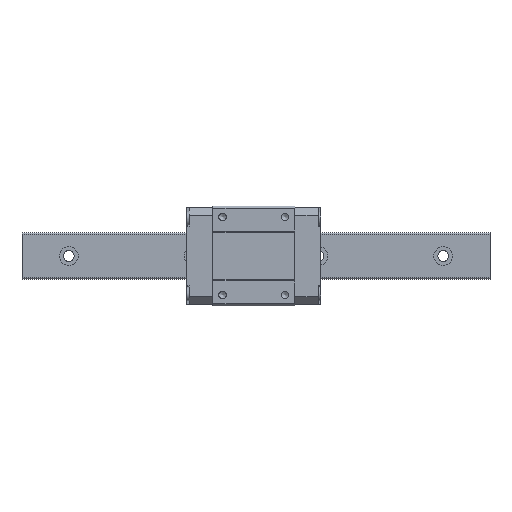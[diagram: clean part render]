
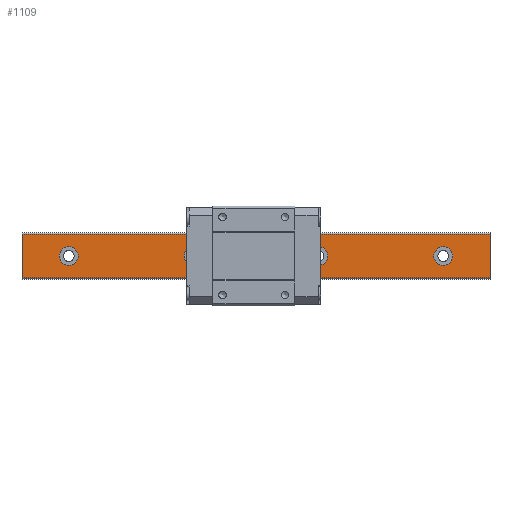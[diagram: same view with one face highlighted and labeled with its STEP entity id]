
A CAD part, top view. The second image highlights one B-rep face of the part: STEP entity #1109.
In plain terms, the highlighted planar face has unit normal (0, 0, 1).
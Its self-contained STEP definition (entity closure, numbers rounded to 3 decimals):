
#137=CARTESIAN_POINT('',(138.0,0.,9.5));
#138=VERTEX_POINT('',#137);
#139=CARTESIAN_POINT('',(135.0,0.,9.5));
#140=DIRECTION('',(0.0,0.0,-1.0));
#141=DIRECTION('',(1.0,0.0,0.0));
#142=AXIS2_PLACEMENT_3D('',#139,#140,#141);
#143=CIRCLE('',#142,3.);
#144=EDGE_CURVE('',#138,#138,#143,.T.);
#247=CARTESIAN_POINT('',(98.0,0.,9.5));
#248=VERTEX_POINT('',#247);
#249=CARTESIAN_POINT('',(95.0,0.,9.5));
#250=DIRECTION('',(0.0,0.0,-1.0));
#251=DIRECTION('',(1.0,0.0,0.0));
#252=AXIS2_PLACEMENT_3D('',#249,#250,#251);
#253=CIRCLE('',#252,3.);
#254=EDGE_CURVE('',#248,#248,#253,.T.);
#357=CARTESIAN_POINT('',(58.,0.,9.5));
#358=VERTEX_POINT('',#357);
#359=CARTESIAN_POINT('',(55.0,0.,9.5));
#360=DIRECTION('',(0.0,0.0,-1.0));
#361=DIRECTION('',(1.0,0.0,0.0));
#362=AXIS2_PLACEMENT_3D('',#359,#360,#361);
#363=CIRCLE('',#362,3.);
#364=EDGE_CURVE('',#358,#358,#363,.T.);
#467=CARTESIAN_POINT('',(18.0,0.,9.5));
#468=VERTEX_POINT('',#467);
#469=CARTESIAN_POINT('',(15.0,0.,9.5));
#470=DIRECTION('',(0.0,0.0,-1.0));
#471=DIRECTION('',(1.0,0.0,0.0));
#472=AXIS2_PLACEMENT_3D('',#469,#470,#471);
#473=CIRCLE('',#472,3.);
#474=EDGE_CURVE('',#468,#468,#473,.T.);
#1041=CARTESIAN_POINT('',(150.0,-7.,9.5));
#1042=VERTEX_POINT('',#1041);
#1049=CARTESIAN_POINT('',(0.0,-7.,9.5));
#1050=VERTEX_POINT('',#1049);
#1051=CARTESIAN_POINT('',(0.0,-7.,9.5));
#1052=DIRECTION('',(1.0,0.0,0.0));
#1053=VECTOR('',#1052,150.0);
#1054=LINE('',#1051,#1053);
#1055=EDGE_CURVE('',#1050,#1042,#1054,.T.);
#1067=CARTESIAN_POINT('',(0.0,-7.,9.5));
#1068=DIRECTION('',(0.0,0.0,1.0));
#1069=DIRECTION('',(1.0,0.0,0.0));
#1070=AXIS2_PLACEMENT_3D('',#1067,#1068,#1069);
#1071=PLANE('',#1070);
#1072=CARTESIAN_POINT('',(150.0,7.,9.5));
#1073=VERTEX_POINT('',#1072);
#1074=CARTESIAN_POINT('',(150.0,-7.,9.5));
#1075=DIRECTION('',(0.0,1.0,0.0));
#1076=VECTOR('',#1075,14.);
#1077=LINE('',#1074,#1076);
#1078=EDGE_CURVE('',#1042,#1073,#1077,.T.);
#1079=ORIENTED_EDGE('',*,*,#1078,.T.);
#1080=CARTESIAN_POINT('',(0.0,7.,9.5));
#1081=VERTEX_POINT('',#1080);
#1082=CARTESIAN_POINT('',(0.0,7.,9.5));
#1083=DIRECTION('',(1.0,0.0,0.0));
#1084=VECTOR('',#1083,150.0);
#1085=LINE('',#1082,#1084);
#1086=EDGE_CURVE('',#1081,#1073,#1085,.T.);
#1087=ORIENTED_EDGE('',*,*,#1086,.F.);
#1088=CARTESIAN_POINT('',(0.0,7.,9.5));
#1089=DIRECTION('',(0.0,-1.0,0.0));
#1090=VECTOR('',#1089,14.);
#1091=LINE('',#1088,#1090);
#1092=EDGE_CURVE('',#1081,#1050,#1091,.T.);
#1093=ORIENTED_EDGE('',*,*,#1092,.T.);
#1094=ORIENTED_EDGE('',*,*,#1055,.T.);
#1095=EDGE_LOOP('',(#1079,#1087,#1093,#1094));
#1096=FACE_OUTER_BOUND('',#1095,.T.);
#1097=ORIENTED_EDGE('',*,*,#144,.T.);
#1098=EDGE_LOOP('',(#1097));
#1099=FACE_BOUND('',#1098,.T.);
#1100=ORIENTED_EDGE('',*,*,#254,.T.);
#1101=EDGE_LOOP('',(#1100));
#1102=FACE_BOUND('',#1101,.T.);
#1103=ORIENTED_EDGE('',*,*,#364,.T.);
#1104=EDGE_LOOP('',(#1103));
#1105=FACE_BOUND('',#1104,.T.);
#1106=ORIENTED_EDGE('',*,*,#474,.T.);
#1107=EDGE_LOOP('',(#1106));
#1108=FACE_BOUND('',#1107,.T.);
#1109=ADVANCED_FACE('',(#1096,#1099,#1102,#1105,#1108),#1071,.T.);
